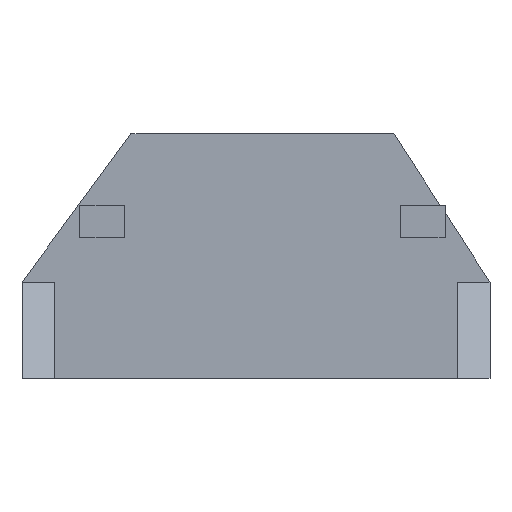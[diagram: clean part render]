
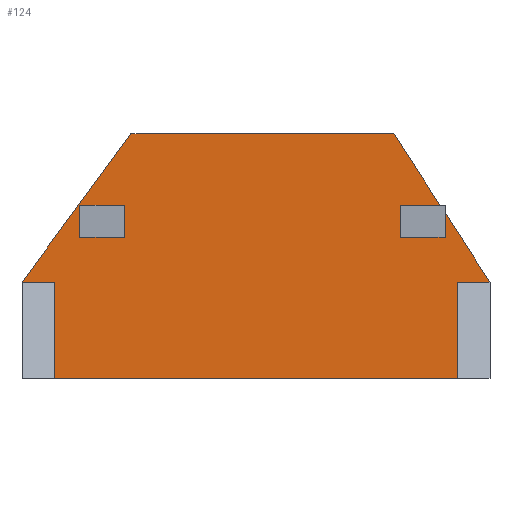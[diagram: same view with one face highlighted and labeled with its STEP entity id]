
A CAD part, front view. The second image highlights one B-rep face of the part: STEP entity #124.
In plain terms, the highlighted planar face has unit normal (0, -1, 0).
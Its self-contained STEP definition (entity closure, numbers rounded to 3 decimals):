
#124=ADVANCED_FACE('',(#220,#221),#222,.F.);
#220=FACE_OUTER_BOUND('',#378,.T.);
#221=FACE_BOUND('',#379,.T.);
#222=PLANE('',#380);
#378=EDGE_LOOP('',(#638,#639,#640,#641,#642,#643,#644,#645,#646,#647,#648,#649,#650));
#379=EDGE_LOOP('',(#651,#652,#653,#654));
#380=AXIS2_PLACEMENT_3D('',#655,#656,#657);
#638=ORIENTED_EDGE('',*,*,#1075,.T.);
#639=ORIENTED_EDGE('',*,*,#1104,.F.);
#640=ORIENTED_EDGE('',*,*,#1106,.F.);
#641=ORIENTED_EDGE('',*,*,#1108,.F.);
#642=ORIENTED_EDGE('',*,*,#1110,.F.);
#643=ORIENTED_EDGE('',*,*,#1112,.F.);
#644=ORIENTED_EDGE('',*,*,#1113,.F.);
#645=ORIENTED_EDGE('',*,*,#1100,.F.);
#646=ORIENTED_EDGE('',*,*,#1102,.F.);
#647=ORIENTED_EDGE('',*,*,#1089,.F.);
#648=ORIENTED_EDGE('',*,*,#1071,.T.);
#649=ORIENTED_EDGE('',*,*,#1068,.T.);
#650=ORIENTED_EDGE('',*,*,#1065,.T.);
#651=ORIENTED_EDGE('',*,*,#1096,.T.);
#652=ORIENTED_EDGE('',*,*,#1094,.T.);
#653=ORIENTED_EDGE('',*,*,#1092,.T.);
#654=ORIENTED_EDGE('',*,*,#1098,.T.);
#655=CARTESIAN_POINT('',(36.683,-11.183,-16.923));
#656=DIRECTION('',(0.0,1.0,0.));
#657=DIRECTION('',(1.0,0.0,0.0));
#1065=EDGE_CURVE('',#1247,#1245,#1248,.T.);
#1068=EDGE_CURVE('',#1252,#1247,#1253,.T.);
#1071=EDGE_CURVE('',#1257,#1252,#1258,.T.);
#1075=EDGE_CURVE('',#1245,#1262,#1264,.T.);
#1089=EDGE_CURVE('',#1257,#1290,#1291,.T.);
#1092=EDGE_CURVE('',#1295,#1293,#1296,.T.);
#1094=EDGE_CURVE('',#1298,#1295,#1299,.T.);
#1096=EDGE_CURVE('',#1301,#1298,#1302,.T.);
#1098=EDGE_CURVE('',#1293,#1301,#1304,.T.);
#1100=EDGE_CURVE('',#1305,#1307,#1308,.T.);
#1102=EDGE_CURVE('',#1290,#1305,#1310,.T.);
#1104=EDGE_CURVE('',#1311,#1262,#1313,.T.);
#1106=EDGE_CURVE('',#1314,#1311,#1316,.T.);
#1108=EDGE_CURVE('',#1317,#1314,#1319,.T.);
#1110=EDGE_CURVE('',#1320,#1317,#1322,.T.);
#1112=EDGE_CURVE('',#1323,#1320,#1325,.T.);
#1113=EDGE_CURVE('',#1307,#1323,#1326,.T.);
#1245=VERTEX_POINT('',#1536);
#1247=VERTEX_POINT('',#1539);
#1248=LINE('',#1540,#1541);
#1252=VERTEX_POINT('',#1547);
#1253=LINE('',#1548,#1549);
#1257=VERTEX_POINT('',#1555);
#1258=LINE('',#1556,#1557);
#1262=VERTEX_POINT('',#1563);
#1264=LINE('',#1566,#1567);
#1290=VERTEX_POINT('',#1606);
#1291=LINE('',#1607,#1608);
#1293=VERTEX_POINT('',#1611);
#1295=VERTEX_POINT('',#1614);
#1296=LINE('',#1615,#1616);
#1298=VERTEX_POINT('',#1619);
#1299=LINE('',#1620,#1621);
#1301=VERTEX_POINT('',#1624);
#1302=LINE('',#1625,#1626);
#1304=LINE('',#1629,#1630);
#1305=VERTEX_POINT('',#1631);
#1307=VERTEX_POINT('',#1634);
#1308=LINE('',#1635,#1636);
#1310=LINE('',#1639,#1640);
#1311=VERTEX_POINT('',#1641);
#1313=LINE('',#1644,#1645);
#1314=VERTEX_POINT('',#1646);
#1316=LINE('',#1649,#1650);
#1317=VERTEX_POINT('',#1651);
#1319=LINE('',#1654,#1655);
#1320=VERTEX_POINT('',#1656);
#1322=LINE('',#1659,#1660);
#1323=VERTEX_POINT('',#1661);
#1325=LINE('',#1664,#1665);
#1326=LINE('',#1666,#1667);
#1536=CARTESIAN_POINT('',(59.,-11.183,-7.063));
#1539=CARTESIAN_POINT('',(59.,-11.183,-12.063));
#1540=CARTESIAN_POINT('',(59.,-11.183,-11.993));
#1541=VECTOR('',#1982,1.0);
#1547=CARTESIAN_POINT('',(66.,-11.183,-12.063));
#1548=CARTESIAN_POINT('',(47.842,-11.183,-12.063));
#1549=VECTOR('',#1985,1.0);
#1555=CARTESIAN_POINT('',(66.,-11.183,-8.271));
#1556=CARTESIAN_POINT('',(66.,-11.183,-14.493));
#1557=VECTOR('',#1988,1.0);
#1563=CARTESIAN_POINT('',(65.217,-11.183,-7.063));
#1566=CARTESIAN_POINT('',(51.342,-11.183,-7.063));
#1567=VECTOR('',#1992,1.0);
#1606=CARTESIAN_POINT('',(73.,-11.183,-19.067));
#1607=CARTESIAN_POINT('',(58.,-11.183,4.067));
#1608=VECTOR('',#2006,1.0);
#1611=CARTESIAN_POINT('',(16.,-11.183,-12.063));
#1614=CARTESIAN_POINT('',(16.,-11.183,-7.063));
#1615=CARTESIAN_POINT('',(16.,-11.183,-14.493));
#1616=VECTOR('',#2009,1.0);
#1619=CARTESIAN_POINT('',(9.,-11.183,-7.063));
#1620=CARTESIAN_POINT('',(26.342,-11.183,-7.063));
#1621=VECTOR('',#2011,1.0);
#1624=CARTESIAN_POINT('',(9.,-11.183,-12.063));
#1625=CARTESIAN_POINT('',(9.,-11.183,-11.993));
#1626=VECTOR('',#2013,1.0);
#1629=CARTESIAN_POINT('',(22.842,-11.183,-12.063));
#1630=VECTOR('',#2015,1.0);
#1631=CARTESIAN_POINT('',(68.,-11.183,-19.067));
#1634=CARTESIAN_POINT('',(68.,-11.183,-34.067));
#1635=CARTESIAN_POINT('',(68.,-11.183,-19.067));
#1636=VECTOR('',#2017,1.0);
#1639=CARTESIAN_POINT('',(73.,-11.183,-19.067));
#1640=VECTOR('',#2019,1.0);
#1641=CARTESIAN_POINT('',(58.,-11.183,4.067));
#1644=CARTESIAN_POINT('',(58.,-11.183,4.067));
#1645=VECTOR('',#2021,1.0);
#1646=CARTESIAN_POINT('',(17.,-11.183,4.067));
#1649=CARTESIAN_POINT('',(17.,-11.183,4.067));
#1650=VECTOR('',#2023,1.0);
#1651=CARTESIAN_POINT('',(0.,-11.183,-19.067));
#1654=CARTESIAN_POINT('',(0.,-11.183,-19.067));
#1655=VECTOR('',#2025,1.0);
#1656=CARTESIAN_POINT('',(5.,-11.183,-19.067));
#1659=CARTESIAN_POINT('',(5.,-11.183,-19.067));
#1660=VECTOR('',#2027,1.0);
#1661=CARTESIAN_POINT('',(5.,-11.183,-34.067));
#1664=CARTESIAN_POINT('',(5.,-11.183,-34.067));
#1665=VECTOR('',#2029,1.0);
#1666=CARTESIAN_POINT('',(68.,-11.183,-34.067));
#1667=VECTOR('',#2030,1.0);
#1982=DIRECTION('',(0.0,0.,1.0));
#1985=DIRECTION('',(-1.0,0.0,0.0));
#1988=DIRECTION('',(0.0,0.,-1.0));
#1992=DIRECTION('',(1.0,0.0,0.0));
#2006=DIRECTION('',(0.544,0.,-0.839));
#2009=DIRECTION('',(0.0,0.,-1.0));
#2011=DIRECTION('',(1.0,0.0,0.0));
#2013=DIRECTION('',(0.0,0.,1.0));
#2015=DIRECTION('',(-1.0,0.0,-0.0));
#2017=DIRECTION('',(0.0,0.,-1.0));
#2019=DIRECTION('',(-1.0,0.,0.));
#2021=DIRECTION('',(0.544,0.,-0.839));
#2023=DIRECTION('',(1.0,0.0,0.0));
#2025=DIRECTION('',(0.592,0.,0.806));
#2027=DIRECTION('',(-1.0,0.0,-0.0));
#2029=DIRECTION('',(0.,0.,1.0));
#2030=DIRECTION('',(-1.0,0.0,-0.0));
